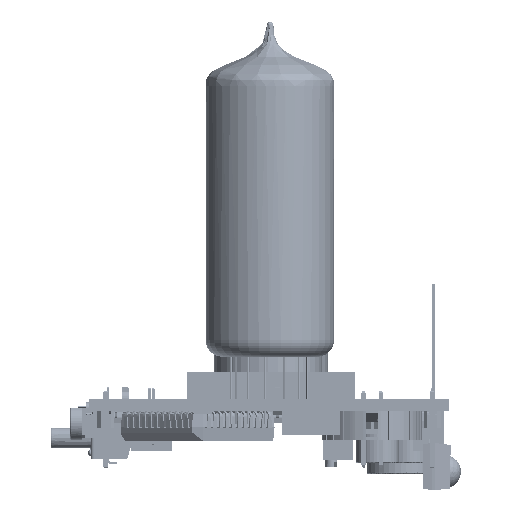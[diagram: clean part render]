
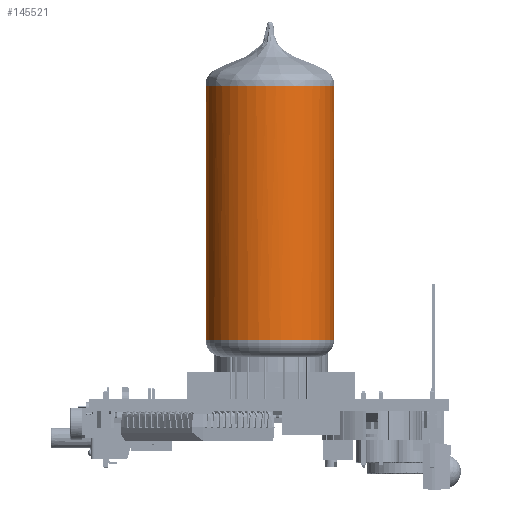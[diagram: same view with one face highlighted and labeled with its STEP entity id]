
A CAD part, left-side view. The second image highlights one B-rep face of the part: STEP entity #145521.
In plain terms, the highlighted cylindrical face has radius 9.5 mm (diameter 19 mm), a partial arc.
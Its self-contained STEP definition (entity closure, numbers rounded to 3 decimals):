
#145252 = EDGE_CURVE('',#145253,#145255,#145257,.T.);
#145253 = VERTEX_POINT('',#145254);
#145254 = CARTESIAN_POINT('',(17.025,36.055,
    46.309));
#145255 = VERTEX_POINT('',#145256);
#145256 = CARTESIAN_POINT('',(11.834,34.511,
    46.309));
#145257 = B_SPLINE_CURVE_WITH_KNOTS('',5,(#145258,#145259,#145260,
    #145261,#145262,#145263),.UNSPECIFIED.,.F.,.F.,(6,6),(0.409,
    0.5),.PIECEWISE_BEZIER_KNOTS.);
#145258 = CARTESIAN_POINT('',(17.025,36.055,
    46.309));
#145259 = CARTESIAN_POINT('',(15.955,36.056,
    46.309));
#145260 = CARTESIAN_POINT('',(14.879,35.907,
    46.309));
#145261 = CARTESIAN_POINT('',(13.819,35.603,
    46.309));
#145262 = CARTESIAN_POINT('',(12.796,35.139,
    46.309));
#145263 = CARTESIAN_POINT('',(11.834,34.511,
    46.309));
#145460 = VERTEX_POINT('',#145461);
#145461 = CARTESIAN_POINT('',(17.025,36.055,
    8.809));
#145469 = VERTEX_POINT('',#145470);
#145470 = CARTESIAN_POINT('',(17.025,17.055,
    8.809));
#145493 = VERTEX_POINT('',#145494);
#145494 = CARTESIAN_POINT('',(17.025,17.055,
    46.309));
#145503 = EDGE_CURVE('',#145493,#145469,#145504,.T.);
#145504 = LINE('',#145505,#145506);
#145505 = CARTESIAN_POINT('',(17.025,17.055,
    46.309));
#145506 = VECTOR('',#145507,1.);
#145507 = DIRECTION('',(0.,0.,-1.));
#145510 = EDGE_CURVE('',#145253,#145460,#145511,.T.);
#145511 = LINE('',#145512,#145513);
#145512 = CARTESIAN_POINT('',(17.025,36.055,
    46.309));
#145513 = VECTOR('',#145514,1.);
#145514 = DIRECTION('',(0.,0.,-1.));
#145521 = ADVANCED_FACE('',(#145522),#145549,.T.);
#145522 = FACE_BOUND('',#145523,.T.);
#145523 = EDGE_LOOP('',(#145524,#145525,#145540,#145541,#145542));
#145524 = ORIENTED_EDGE('',*,*,#145503,.F.);
#145525 = ORIENTED_EDGE('',*,*,#145526,.F.);
#145526 = EDGE_CURVE('',#145255,#145493,#145527,.T.);
#145527 = B_SPLINE_CURVE_WITH_KNOTS('',5,(#145528,#145529,#145530,
    #145531,#145532,#145533,#145534,#145535,#145536,#145537,#145538,
    #145539),.UNSPECIFIED.,.F.,.F.,(6,3,3,6),(0.5,0.75,0.781,
    0.909),.UNSPECIFIED.);
#145528 = CARTESIAN_POINT('',(11.834,34.511,
    46.309));
#145529 = CARTESIAN_POINT('',(9.199,32.793,
    46.309));
#145530 = CARTESIAN_POINT('',(7.51,30.166,
    46.309));
#145531 = CARTESIAN_POINT('',(6.862,27.084,
    46.309));
#145532 = CARTESIAN_POINT('',(7.41,23.613,
    46.309));
#145533 = CARTESIAN_POINT('',(9.517,20.712,
    46.309));
#145534 = CARTESIAN_POINT('',(9.755,20.421,
    46.309));
#145535 = CARTESIAN_POINT('',(11.049,18.976,
    46.309));
#145536 = CARTESIAN_POINT('',(12.64,17.927,
    46.309));
#145537 = CARTESIAN_POINT('',(14.05,17.352,
    46.309));
#145538 = CARTESIAN_POINT('',(15.531,17.057,
    46.309));
#145539 = CARTESIAN_POINT('',(17.025,17.055,
    46.309));
#145540 = ORIENTED_EDGE('',*,*,#145252,.F.);
#145541 = ORIENTED_EDGE('',*,*,#145510,.T.);
#145542 = ORIENTED_EDGE('',*,*,#145543,.T.);
#145543 = EDGE_CURVE('',#145460,#145469,#145544,.T.);
#145544 = CIRCLE('',#145545,9.5);
#145545 = AXIS2_PLACEMENT_3D('',#145546,#145547,#145548);
#145546 = CARTESIAN_POINT('',(17.025,26.555,
    8.809));
#145547 = DIRECTION('',(0.,0.,1.));
#145548 = DIRECTION('',(0.,-1.,0.));
#145549 = CYLINDRICAL_SURFACE('',#145550,9.5);
#145550 = AXIS2_PLACEMENT_3D('',#145551,#145552,#145553);
#145551 = CARTESIAN_POINT('',(17.025,26.555,
    46.309));
#145552 = DIRECTION('',(0.,0.,-1.));
#145553 = DIRECTION('',(0.,1.,0.));
